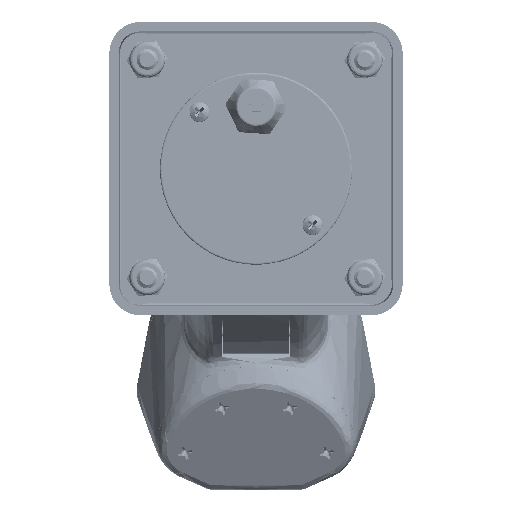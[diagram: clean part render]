
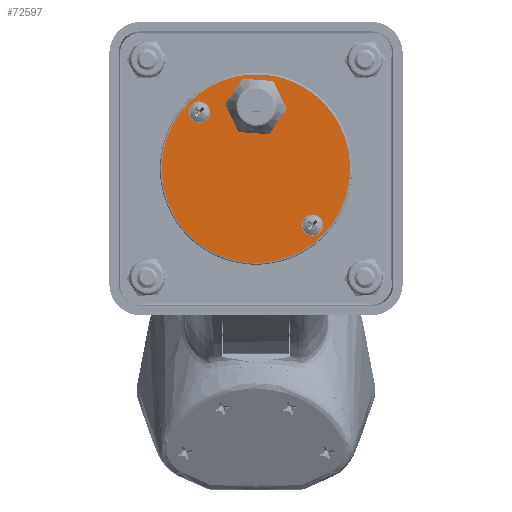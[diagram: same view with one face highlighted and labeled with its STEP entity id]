
A CAD part, front view. The second image highlights one B-rep face of the part: STEP entity #72597.
In plain terms, the highlighted planar face has unit normal (0, -1, 0).
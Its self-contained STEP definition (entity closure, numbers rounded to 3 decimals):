
#4721 =( BOUNDED_CURVE ( )  B_SPLINE_CURVE ( 3, ( #57231, #171512, #76474, #209863 ),
 .UNSPECIFIED., .F., .F. ) 
 B_SPLINE_CURVE_WITH_KNOTS ( ( 4, 4 ),
 ( 0., 1. ),
 .UNSPECIFIED. ) 
 CURVE ( )  GEOMETRIC_REPRESENTATION_ITEM ( )  RATIONAL_B_SPLINE_CURVE ( ( 1., 0.333, 0.333, 1. ) ) 
 REPRESENTATION_ITEM ( '' )  );
#10124 = CARTESIAN_POINT ( 'NONE',  ( -19.418, 0., 0. ) ) ;
#13177 = EDGE_CURVE ( 'NONE', #204536, #116720, #206463, .T. ) ;
#14635 = FACE_OUTER_BOUND ( 'NONE', #217075, .T. ) ;
#19690 = EDGE_CURVE ( 'NONE', #242139, #82987, #35514, .T. ) ;
#20604 = FACE_BOUND ( 'NONE', #155142, .T. ) ;
#22898 = CARTESIAN_POINT ( 'NONE',  ( 0., 0., 0. ) ) ;
#35514 =( BOUNDED_CURVE ( )  B_SPLINE_CURVE ( 3, ( #172242, #153062, #171414, #57957 ),
 .UNSPECIFIED., .F., .F. ) 
 B_SPLINE_CURVE_WITH_KNOTS ( ( 4, 4 ),
 ( 0., 1. ),
 .UNSPECIFIED. ) 
 CURVE ( )  GEOMETRIC_REPRESENTATION_ITEM ( )  RATIONAL_B_SPLINE_CURVE ( ( 1., 0.333, 0.333, 1. ) ) 
 REPRESENTATION_ITEM ( '' )  );
#36900 = VERTEX_POINT ( 'NONE', #10124 ) ;
#41888 = VERTEX_POINT ( 'NONE', #177275 ) ;
#54615 = EDGE_CURVE ( 'NONE', #82987, #242139, #4721, .T. ) ;
#54835 = CARTESIAN_POINT ( 'NONE',  ( -22.415, 0., 0. ) ) ;
#56214 = DIRECTION ( 'NONE',  ( 0., -1., 0. ) ) ;
#57149 = AXIS2_PLACEMENT_3D ( 'NONE', #108373, #241730, #127526 ) ;
#57231 = CARTESIAN_POINT ( 'NONE',  ( 0., 0., -26.429 ) ) ;
#57957 = CARTESIAN_POINT ( 'NONE',  ( 0., 0., -26.429 ) ) ;
#61219 = PLANE ( 'NONE',  #79320 ) ;
#66516 = CIRCLE ( 'NONE', #236541, 2.997 ) ;
#70705 = EDGE_LOOP ( 'NONE', ( #158621, #135908 ) ) ;
#72597 = ADVANCED_FACE ( 'NONE', ( #110091, #211528, #14635, #20604 ), #61219, .F. ) ;
#74026 = DIRECTION ( 'NONE',  ( 1., 0., 0. ) ) ;
#74394 = CARTESIAN_POINT ( 'NONE',  ( 22.416, 0., 0. ) ) ;
#76474 = CARTESIAN_POINT ( 'NONE',  ( -52.857, 0., 26.429 ) ) ;
#79320 = AXIS2_PLACEMENT_3D ( 'NONE', #22898, #194617, #80392 ) ;
#80392 = DIRECTION ( 'NONE',  ( -1., 0., 0. ) ) ;
#82987 = VERTEX_POINT ( 'NONE', #95616 ) ;
#83776 = CARTESIAN_POINT ( 'NONE',  ( 22.416, 0., 0. ) ) ;
#89332 = CARTESIAN_POINT ( 'NONE',  ( 6.551, 0., -12.322 ) ) ;
#93579 = DIRECTION ( 'NONE',  ( 1., 0., 0. ) ) ;
#95616 = CARTESIAN_POINT ( 'NONE',  ( 0., 0., -26.429 ) ) ;
#96875 = ORIENTED_EDGE ( 'NONE', *, *, #54615, .F. ) ;
#102964 = DIRECTION ( 'NONE',  ( 1., 0., 0. ) ) ;
#106196 = EDGE_CURVE ( 'NONE', #116720, #204536, #173424, .T. ) ;
#108373 = CARTESIAN_POINT ( 'NONE',  ( -22.415, 0., 0. ) ) ;
#108378 = CARTESIAN_POINT ( 'NONE',  ( 12.306, 0., -12.322 ) ) ;
#109314 = ORIENTED_EDGE ( 'NONE', *, *, #235131, .F. ) ;
#110091 = FACE_BOUND ( 'NONE', #70705, .T. ) ;
#111081 = ORIENTED_EDGE ( 'NONE', *, *, #129763, .F. ) ;
#111491 = AXIS2_PLACEMENT_3D ( 'NONE', #108378, #241734, #127529 ) ;
#116547 = CARTESIAN_POINT ( 'NONE',  ( 0., 0., 26.429 ) ) ;
#116720 = VERTEX_POINT ( 'NONE', #128054 ) ;
#119276 = CARTESIAN_POINT ( 'NONE',  ( -25.413, 0., 0. ) ) ;
#127526 = DIRECTION ( 'NONE',  ( 1., 0., 0. ) ) ;
#127529 = DIRECTION ( 'NONE',  ( 1., 0., 0. ) ) ;
#128054 = CARTESIAN_POINT ( 'NONE',  ( 18.06, 0., -12.322 ) ) ;
#129326 = CIRCLE ( 'NONE', #57149, 2.997 ) ;
#129763 = EDGE_CURVE ( 'NONE', #41888, #143583, #157051, .T. ) ;
#135908 = ORIENTED_EDGE ( 'NONE', *, *, #185912, .F. ) ;
#142659 = AXIS2_PLACEMENT_3D ( 'NONE', #74394, #207827, #93579 ) ;
#143583 = VERTEX_POINT ( 'NONE', #216559 ) ;
#147613 = AXIS2_PLACEMENT_3D ( 'NONE', #170479, #56214, #189678 ) ;
#153062 = CARTESIAN_POINT ( 'NONE',  ( 52.857, 0., 26.429 ) ) ;
#155142 = EDGE_LOOP ( 'NONE', ( #179635, #188582 ) ) ;
#157051 = CIRCLE ( 'NONE', #142659, 2.997 ) ;
#158621 = ORIENTED_EDGE ( 'NONE', *, *, #170847, .F. ) ;
#170479 = CARTESIAN_POINT ( 'NONE',  ( 12.306, 0., -12.322 ) ) ;
#170847 = EDGE_CURVE ( 'NONE', #36900, #227180, #129326, .T. ) ;
#171414 = CARTESIAN_POINT ( 'NONE',  ( 52.857, 0., -26.429 ) ) ;
#171512 = CARTESIAN_POINT ( 'NONE',  ( -52.857, 0., -26.429 ) ) ;
#172242 = CARTESIAN_POINT ( 'NONE',  ( 0., 0., 26.429 ) ) ;
#173424 = CIRCLE ( 'NONE', #111491, 5.754 ) ;
#177275 = CARTESIAN_POINT ( 'NONE',  ( 19.418, 0., 0. ) ) ;
#179635 = ORIENTED_EDGE ( 'NONE', *, *, #106196, .F. ) ;
#185912 = EDGE_CURVE ( 'NONE', #227180, #36900, #66516, .T. ) ;
#188270 = DIRECTION ( 'NONE',  ( 0., -1., 0. ) ) ;
#188582 = ORIENTED_EDGE ( 'NONE', *, *, #13177, .F. ) ;
#189678 = DIRECTION ( 'NONE',  ( 1., 0., 0. ) ) ;
#194617 = DIRECTION ( 'NONE',  ( 0., 1., 0. ) ) ;
#204536 = VERTEX_POINT ( 'NONE', #89332 ) ;
#206463 = CIRCLE ( 'NONE', #147613, 5.754 ) ;
#207827 = DIRECTION ( 'NONE',  ( 0., -1., 0. ) ) ;
#209044 = ORIENTED_EDGE ( 'NONE', *, *, #19690, .F. ) ;
#209863 = CARTESIAN_POINT ( 'NONE',  ( 0., 0., 26.429 ) ) ;
#211528 = FACE_BOUND ( 'NONE', #234992, .T. ) ;
#216559 = CARTESIAN_POINT ( 'NONE',  ( 25.413, 0., 0. ) ) ;
#217075 = EDGE_LOOP ( 'NONE', ( #209044, #96875 ) ) ;
#217168 = DIRECTION ( 'NONE',  ( 0., -1., 0. ) ) ;
#226803 = AXIS2_PLACEMENT_3D ( 'NONE', #83776, #217168, #102964 ) ;
#227180 = VERTEX_POINT ( 'NONE', #119276 ) ;
#233455 = CIRCLE ( 'NONE', #226803, 2.997 ) ;
#234992 = EDGE_LOOP ( 'NONE', ( #109314, #111081 ) ) ;
#235131 = EDGE_CURVE ( 'NONE', #143583, #41888, #233455, .T. ) ;
#236541 = AXIS2_PLACEMENT_3D ( 'NONE', #54835, #188270, #74026 ) ;
#241730 = DIRECTION ( 'NONE',  ( 0., -1., 0. ) ) ;
#241734 = DIRECTION ( 'NONE',  ( 0., -1., 0. ) ) ;
#242139 = VERTEX_POINT ( 'NONE', #116547 ) ;
